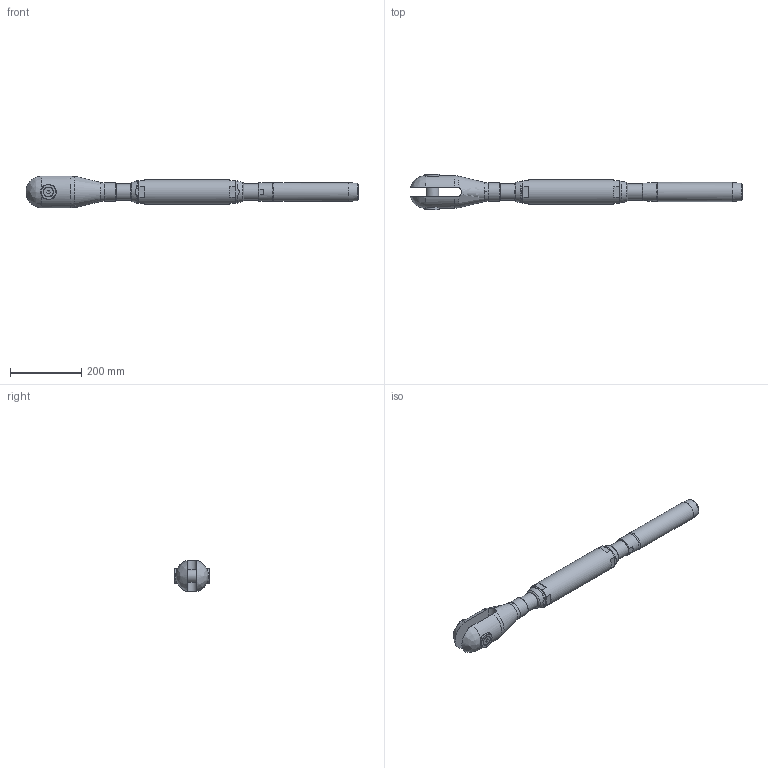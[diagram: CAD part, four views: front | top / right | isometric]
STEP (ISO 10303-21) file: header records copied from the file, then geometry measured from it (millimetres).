
FILE_DESCRIPTION(/* description */ (''),/* implementation_level */ '2;1');
FILE_NAME(/* name */ 'TBC 26_S355',/* time_stamp */ '2023-05-23T18:17:39+02:00',/* author */ (''),/* organization */ (''),/* preprocessor_version */ 'ST-DEVELOPER v16.5',/* originating_system */ 'Rhino 7.22',/* authorisation */ '');
FILE_SCHEMA (('CONFIG_CONTROL_DESIGN'));
Length unit declared in the file: millimetre
Products named in the file (1): Document
Bounding box: 931.89 x 99.79 x 87.95 mm (x, y, z)
Volume: 2646788.7 mm3; surface area: 326843.1 mm2
Topology: 10 solids, 10 shells, 140 faces, 383 edges, 265 vertices
Faces by surface type: plane 65, bspline 40, cylinder 35
Full cylindrical faces by diameter (mm): 11.835 x2, 14 x2, 14.5 x2, 26.52 x2, 36 x1, 38 x2, 41.752 x4, 42 x2, 45 x2, 49 x1, 50.8 x2, 53.4 x1, 69 x1
Entity records: 5915 total; most frequent: CARTESIAN_POINT 3486, ORIENTED_EDGE 758, EDGE_CURVE 379, VERTEX_POINT 265, EDGE_LOOP 160, B_SPLINE_CURVE_WITH_KNOTS 157, ADVANCED_FACE 140, FACE_OUTER_BOUND 140
